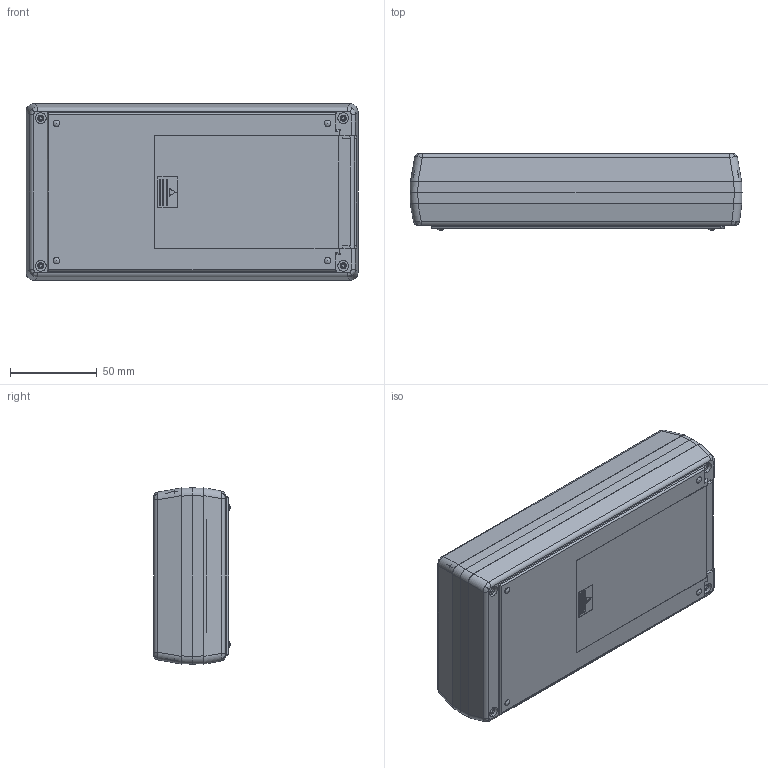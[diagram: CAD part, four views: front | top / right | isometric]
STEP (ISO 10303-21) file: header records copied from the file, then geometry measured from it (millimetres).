
FILE_DESCRIPTION (( 'STEP AP214' ), '1' );
FILE_NAME ('101-41-4C-E-R.STEP', '2019-12-01T01:26:23', ( 'Rudy' ), ( '' ), 'SwSTEP 2.0', 'SolidWorks 2014', '' );
FILE_SCHEMA (( 'AUTOMOTIVE_DESIGN' ));
Length unit declared in the file: millimetre
Products named in the file (5): 101-41-4C-E-R; 4C door; 100-06 EXPANDER; 100-04-LCD Top; 100-01 BOT-4C
Assembly tree (4 placements, depth 2):
  101-41-4C-E-R
    100-01 BOT-4C
    100-04-LCD Top
    100-06 EXPANDER
    4C door
Bounding box: 191 x 44 x 101.4 mm (x, y, z)
Volume: 144616.1 mm3; surface area: 167315.8 mm2
Topology: 4 solids, 4 shells, 845 faces, 2259 edges, 1418 vertices
Faces by surface type: plane 495, cylinder 252, cone 42, bspline 40, torus 12, sphere 4
Entity records: 27517 total; most frequent: CARTESIAN_POINT 7030, ORIENTED_EDGE 4446, DIRECTION 3893, EDGE_CURVE 2223, LINE 1547, VECTOR 1547, VERTEX_POINT 1410, AXIS2_PLACEMENT_3D 1173
